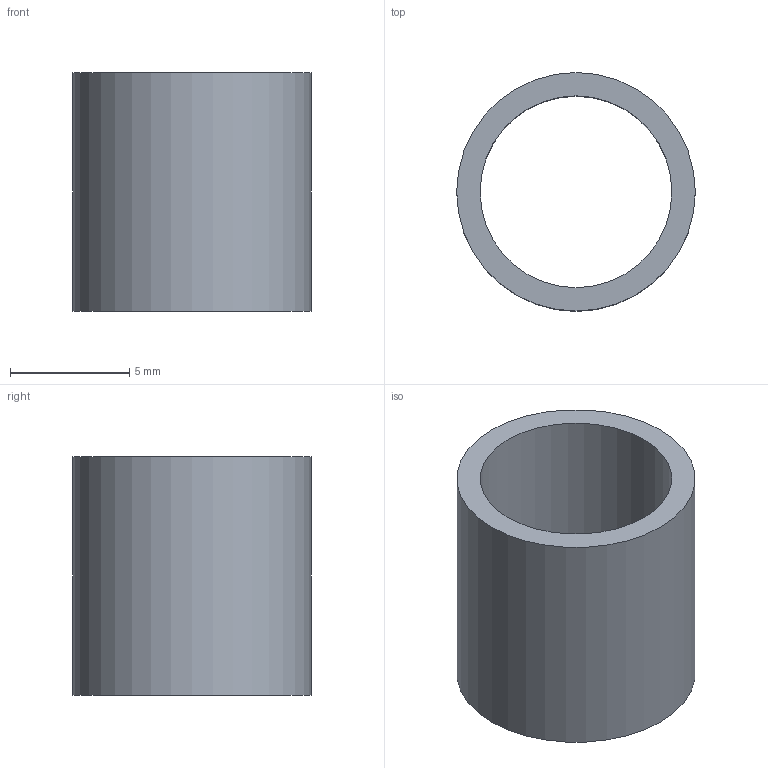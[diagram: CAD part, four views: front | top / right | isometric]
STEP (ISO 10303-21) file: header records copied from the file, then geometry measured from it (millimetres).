
FILE_DESCRIPTION(('Open CASCADE Model'),'2;1');
FILE_NAME('Open CASCADE Shape Model','2026-10-18T02:27:58',('Author'),( 'Open CASCADE'),'Open CASCADE STEP processor 7.9','Open CASCADE 7.9' ,'Unknown');
FILE_SCHEMA(('AUTOMOTIVE_DESIGN { 1 0 10303 214 1 1 1 1 }'));
Length unit declared in the file: millimetre
Products named in the file (1): Open CASCADE STEP translator 7.9 15
Bounding box: 10 x 10 x 10 mm (x, y, z)
Volume: 277.7 mm3; surface area: 622.3 mm2
Topology: 1 solids, 1 shells, 4 faces, 6 edges, 4 vertices
Faces by surface type: cylinder 2, plane 2
Full cylindrical faces by diameter (mm): 8.04 x1, 10 x1
Entity records: 192 total; most frequent: CARTESIAN_POINT 39, DIRECTION 30, ORIENTED_EDGE 12, PCURVE 12, DEFINITIONAL_REPRESENTATION 12, LINE 10, VECTOR 10, AXIS2_PLACEMENT_3D 9
